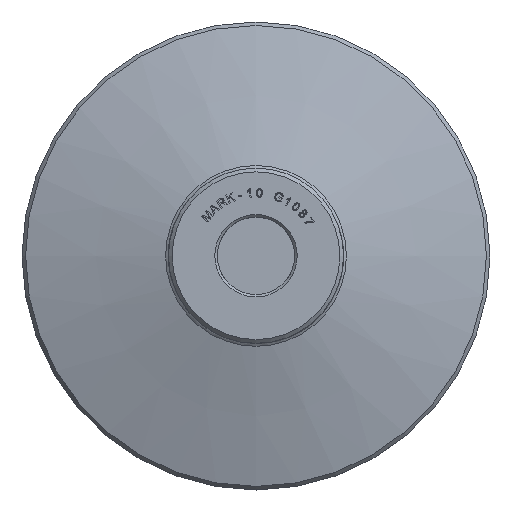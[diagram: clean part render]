
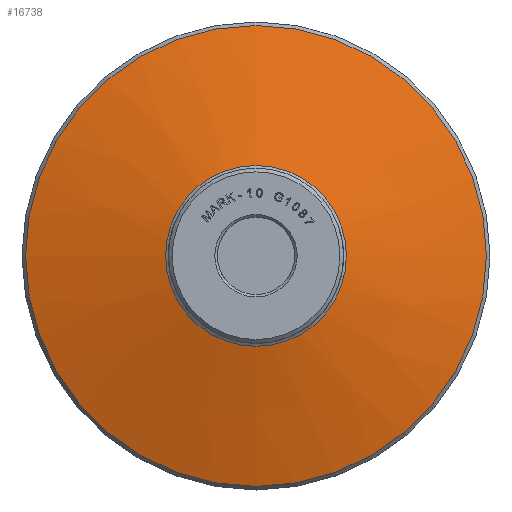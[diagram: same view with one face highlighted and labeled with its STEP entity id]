
A CAD part, top view. The second image highlights one B-rep face of the part: STEP entity #16738.
In plain terms, the highlighted conical face has half-angle 74 degrees and reference radius 32.988 mm.
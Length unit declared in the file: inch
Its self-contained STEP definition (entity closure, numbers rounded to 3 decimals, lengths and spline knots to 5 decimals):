
#16696=CARTESIAN_POINT('',(21.03123,1.06643,-13.9518));
#16697=VERTEX_POINT('',#16696);
#16698=CARTESIAN_POINT('',(21.03123,0.3363,-13.9518));
#16699=DIRECTION('',(0.0,0.0,1.0));
#16700=DIRECTION('',(0.0,-1.0,0.0));
#16701=AXIS2_PLACEMENT_3D('',#16698,#16699,#16700);
#16702=CIRCLE('',#16701,0.73014);
#16703=EDGE_CURVE('',#16697,#16697,#16702,.T.);
#16719=CARTESIAN_POINT('',(21.03123,0.3363,-14.11484));
#16720=DIRECTION('',(0.,0.,-1.0));
#16721=DIRECTION('',(0.0,1.0,0.0));
#16722=AXIS2_PLACEMENT_3D('',#16719,#16720,#16721);
#16723=CONICAL_SURFACE('',#16722,1.29875,74.0);
#16724=CARTESIAN_POINT('',(21.03123,2.19746,-14.27611));
#16725=VERTEX_POINT('',#16724);
#16726=CARTESIAN_POINT('',(21.03123,0.3363,-14.27611));
#16727=DIRECTION('',(0.0,0.0,-1.0));
#16728=DIRECTION('',(0.0,-1.0,0.0));
#16729=AXIS2_PLACEMENT_3D('',#16726,#16727,#16728);
#16730=CIRCLE('',#16729,1.86116);
#16731=EDGE_CURVE('',#16725,#16725,#16730,.T.);
#16732=ORIENTED_EDGE('',*,*,#16731,.F.);
#16733=EDGE_LOOP('',(#16732));
#16734=FACE_OUTER_BOUND('',#16733,.T.);
#16735=ORIENTED_EDGE('',*,*,#16703,.F.);
#16736=EDGE_LOOP('',(#16735));
#16737=FACE_BOUND('',#16736,.T.);
#16738=ADVANCED_FACE('',(#16734,#16737),#16723,.T.);
